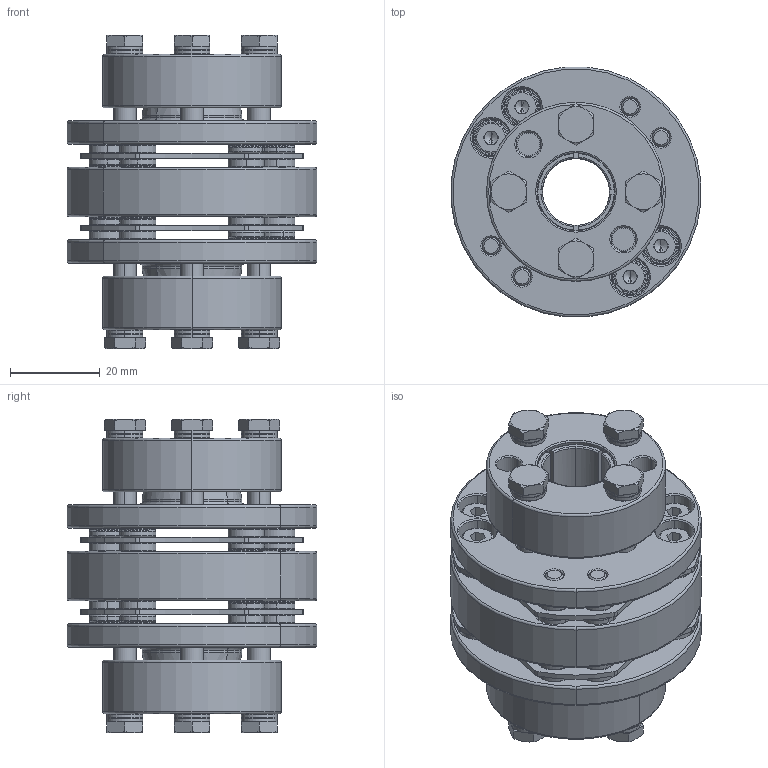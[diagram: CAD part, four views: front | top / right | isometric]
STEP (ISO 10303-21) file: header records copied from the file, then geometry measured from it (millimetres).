
FILE_DESCRIPTION (( 'STEP AP214' ), '1' );
FILE_NAME ('SHDW-56T.STEP', '2009-05-21T06:19:01', ( '歜煽繹' ), ( '' ), 'SwSTEP 2.0', 'SolidWorks 2007', '' );
FILE_SCHEMA (( 'AUTOMOTIVE_DESIGN' ));
Length unit declared in the file: millimetre
Products named in the file (12): M5x20_H_H; Washer; SHDW-56T; 醞除っ_ル遽; body_ル遽; cover_ル遽; SHD-56T_ル遽; collar-2_ル遽; collar-1_ル遽; sus-plate1_ル遽; 憮蝶っ-asm_ル遽; M4x10
Assembly tree (39 placements, depth 4):
  SHDW-56T
    SHD-56T_ル遽  x2
      Washer
      憮蝶っ-asm_ル遽
        M4x10  x8
        collar-2_ル遽  x8
        collar-1_ル遽  x8
        sus-plate1_ル遽
      M5x20_H_H
      body_ル遽
      cover_ル遽
    醞除っ_ル遽
Bounding box: 55.79 x 55.79 x 70.14 mm (x, y, z)
Volume: 74579.1 mm3; surface area: 53435.6 mm2
Topology: 71 solids, 71 shells, 1820 faces, 3922 edges, 2272 vertices
Faces by surface type: torus 524, plane 506, cylinder 474, cone 316
Entity records: 11624 total; most frequent: DIRECTION 2203, CARTESIAN_POINT 1962, ORIENTED_EDGE 1738, AXIS2_PLACEMENT_3D 948, EDGE_CURVE 869, CIRCLE 526, VERTEX_POINT 515, EDGE_LOOP 466
